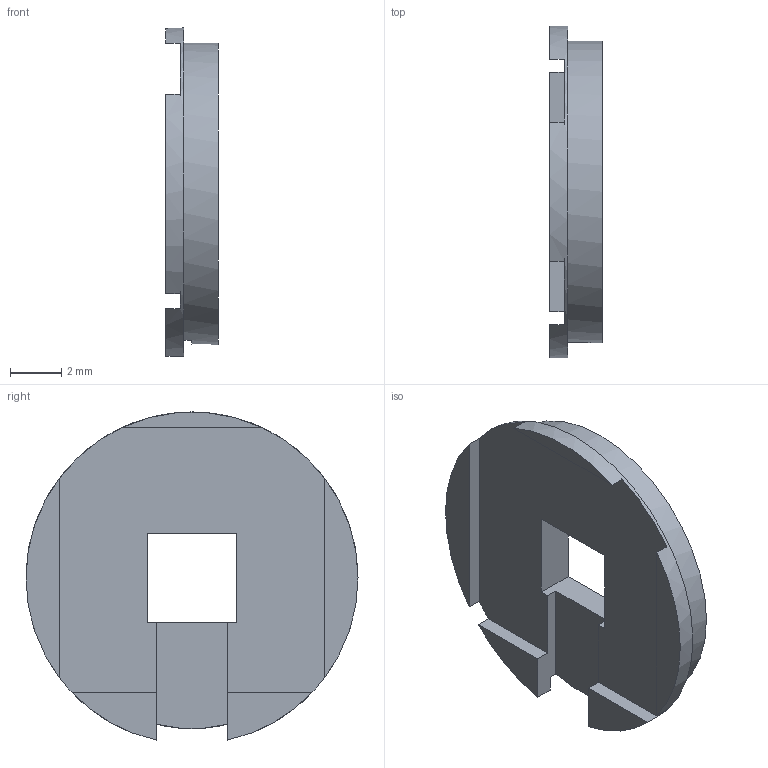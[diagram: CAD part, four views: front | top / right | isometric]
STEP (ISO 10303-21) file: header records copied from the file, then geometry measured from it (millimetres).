
FILE_DESCRIPTION(('Open CASCADE Model'),'2;1');
FILE_NAME('Open CASCADE Shape Model','2026-09-08T16:14:21',('Author'),( 'Open CASCADE'),'Open CASCADE STEP processor 7.7','Open CASCADE 7.7' ,'Unknown');
FILE_SCHEMA(('AUTOMOTIVE_DESIGN { 1 0 10303 214 1 1 1 1 }'));
Length unit declared in the file: millimetre
Products named in the file (1): Open CASCADE STEP translator 7.7 1
Bounding box: 2.05 x 13 x 12.85 mm (x, y, z)
Volume: 155.7 mm3; surface area: 349.8 mm2
Topology: 1 solids, 1 shells, 22 faces, 63 edges, 42 vertices
Faces by surface type: plane 20, cylinder 2
Full cylindrical faces by diameter (mm): 11.8 x1
Entity records: 1507 total; most frequent: CARTESIAN_POINT 346, DIRECTION 182, ORIENTED_EDGE 126, PCURVE 126, DEFINITIONAL_REPRESENTATION 126, LINE 99, VECTOR 99, EDGE_CURVE 63
